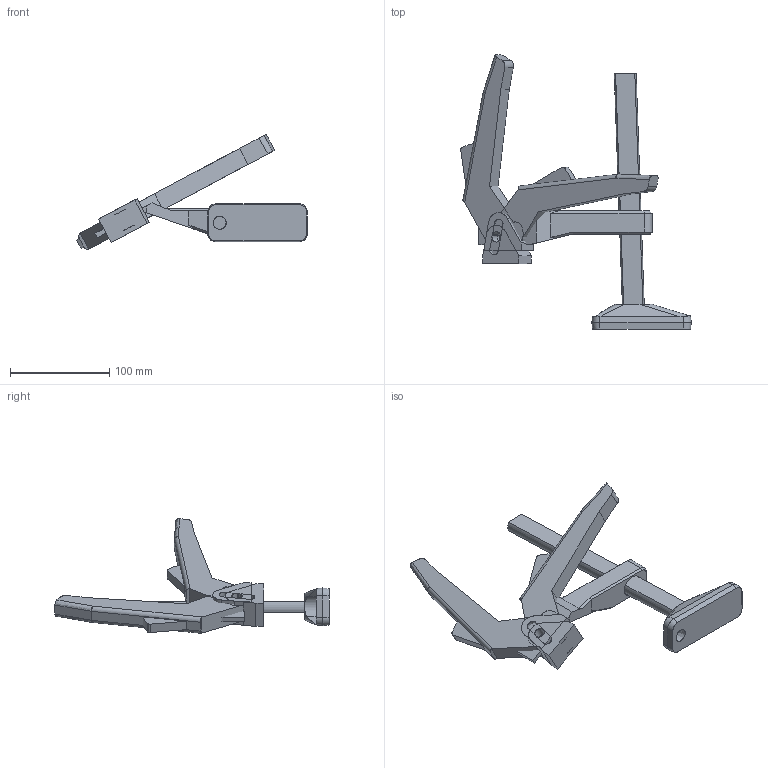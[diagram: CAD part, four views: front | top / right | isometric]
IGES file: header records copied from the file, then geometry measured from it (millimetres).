
Start section: VX Corporation
Global section: file name: BS3N001.igs; native system: VX; preprocessor: 1.0; author: VX; organization: VX CORP; date: 110208.114912; units: millimetre
Bounding box: 231.89 x 275.64 x 115.22 mm (x, y, z)
Surface area: 98139.7 mm2 (no closed solid volume)
Topology: 0 solids, 0 shells, 151 faces, 795 edges, 786 vertices
Faces by surface type: bspline 151
